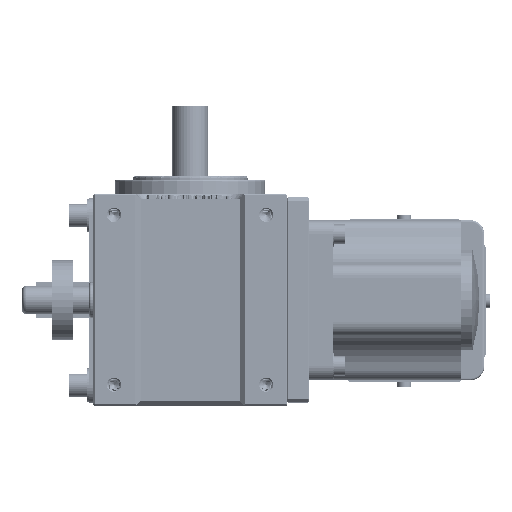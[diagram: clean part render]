
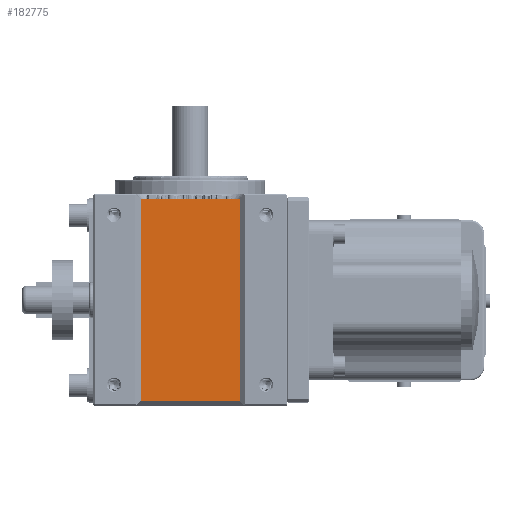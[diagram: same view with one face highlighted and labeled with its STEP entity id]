
A CAD part, top view. The second image highlights one B-rep face of the part: STEP entity #182775.
In plain terms, the highlighted planar face has unit normal (0, 0, 1).
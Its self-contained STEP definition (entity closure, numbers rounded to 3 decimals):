
#2601 = LINE ( 'NONE', #93418, #185619 ) ;
#3281 = LINE ( 'NONE', #168419, #152373 ) ;
#14831 = DIRECTION ( 'NONE',  ( 1., 0., 0. ) ) ;
#17544 = CARTESIAN_POINT ( 'NONE',  ( -39., -57., 52. ) ) ;
#26089 = ORIENTED_EDGE ( 'NONE', *, *, #167581, .T. ) ;
#44958 = ORIENTED_EDGE ( 'NONE', *, *, #186454, .T. ) ;
#45060 = CARTESIAN_POINT ( 'NONE',  ( -98., -57., 52. ) ) ;
#49853 = DIRECTION ( 'NONE',  ( 1., 0., 0. ) ) ;
#69278 = DIRECTION ( 'NONE',  ( 0., 1., 0. ) ) ;
#69890 = CARTESIAN_POINT ( 'NONE',  ( -67., 57., 52. ) ) ;
#84323 = EDGE_CURVE ( 'NONE', #169155, #100577, #2601, .T. ) ;
#93418 = CARTESIAN_POINT ( 'NONE',  ( -95., -60., 52. ) ) ;
#100577 = VERTEX_POINT ( 'NONE', #175968 ) ;
#104845 = VECTOR ( 'NONE', #14831, 1000. ) ;
#110079 = EDGE_CURVE ( 'NONE', #180010, #159153, #3281, .T. ) ;
#121814 = CARTESIAN_POINT ( 'NONE',  ( -67., -60., 52. ) ) ;
#128500 = ORIENTED_EDGE ( 'NONE', *, *, #110079, .T. ) ;
#136307 = DIRECTION ( 'NONE',  ( 0., 0., 1. ) ) ;
#138671 = LINE ( 'NONE', #45060, #104845 ) ;
#138742 = FACE_OUTER_BOUND ( 'NONE', #151838, .T. ) ;
#140580 = LINE ( 'NONE', #69890, #174490 ) ;
#150229 = PLANE ( 'NONE',  #173589 ) ;
#151838 = EDGE_LOOP ( 'NONE', ( #44958, #179443, #26089, #128500 ) ) ;
#152373 = VECTOR ( 'NONE', #69278, 1000. ) ;
#159153 = VERTEX_POINT ( 'NONE', #181724 ) ;
#164159 = DIRECTION ( 'NONE',  ( 0., -1., 0. ) ) ;
#167581 = EDGE_CURVE ( 'NONE', #100577, #180010, #138671, .T. ) ;
#168419 = CARTESIAN_POINT ( 'NONE',  ( -39., -60., 52. ) ) ;
#169155 = VERTEX_POINT ( 'NONE', #176974 ) ;
#173589 = AXIS2_PLACEMENT_3D ( 'NONE', #121814, #136307, #49853 ) ;
#174490 = VECTOR ( 'NONE', #185484, 1000. ) ;
#175968 = CARTESIAN_POINT ( 'NONE',  ( -95., -57., 52. ) ) ;
#176974 = CARTESIAN_POINT ( 'NONE',  ( -95., 57., 52. ) ) ;
#179443 = ORIENTED_EDGE ( 'NONE', *, *, #84323, .T. ) ;
#180010 = VERTEX_POINT ( 'NONE', #17544 ) ;
#181724 = CARTESIAN_POINT ( 'NONE',  ( -39., 57., 52. ) ) ;
#182775 = ADVANCED_FACE ( 'NONE', ( #138742 ), #150229, .T. ) ;
#185484 = DIRECTION ( 'NONE',  ( -1., 0., 0. ) ) ;
#185619 = VECTOR ( 'NONE', #164159, 1000. ) ;
#186454 = EDGE_CURVE ( 'NONE', #159153, #169155, #140580, .T. ) ;
